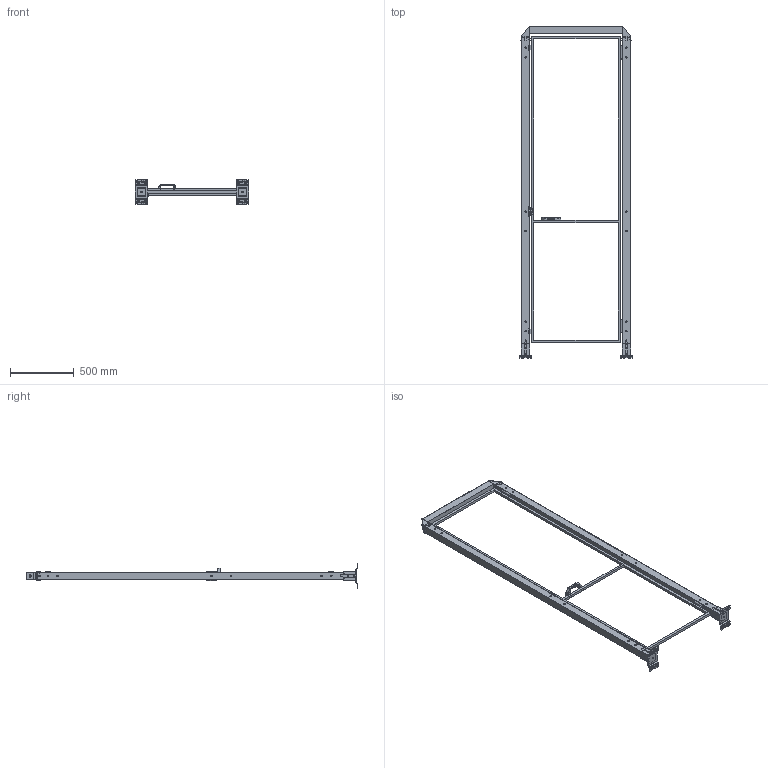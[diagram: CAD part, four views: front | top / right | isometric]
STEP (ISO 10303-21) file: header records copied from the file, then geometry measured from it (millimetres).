
FILE_DESCRIPTION(('STEP AP242'),'1');
FILE_NAME('vfda_bscncr2_07002520.stp','2025-01-31T11:15:21',('TraceParts'),('TraceParts S.A.'),'Spatial InterOp 3D',' ',' ');
FILE_SCHEMA(('AP242_MANAGED_MODEL_BASED_3D_ENGINEERING_MIM_LF {1 0 10303 442 1 1 4}'));
Length unit declared in the file: millimetre
Products named in the file (1): vfda_bscncr2_07002520_1
Bounding box: 890 x 2601 x 192 mm (x, y, z)
Volume: 5297252.4 mm3; surface area: 3548060 mm2
Topology: 12 solids, 12 shells, 1942 faces, 5208 edges, 3340 vertices
Faces by surface type: plane 950, cylinder 652, bspline 236, cone 60, torus 40, sphere 4
Entity records: 78408 total; most frequent: CARTESIAN_POINT 14215, ORIENTED_EDGE 10408, DIRECTION 9578, EDGE_CURVE 5204, VERTEX_POINT 3340, LINE 3216, VECTOR 3216, AXIS2_PLACEMENT_3D 3181
